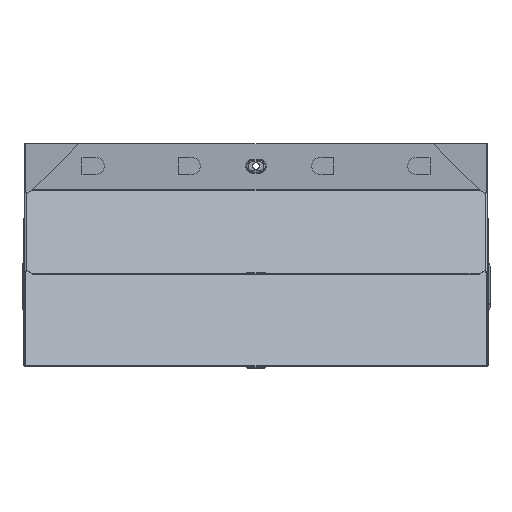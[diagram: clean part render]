
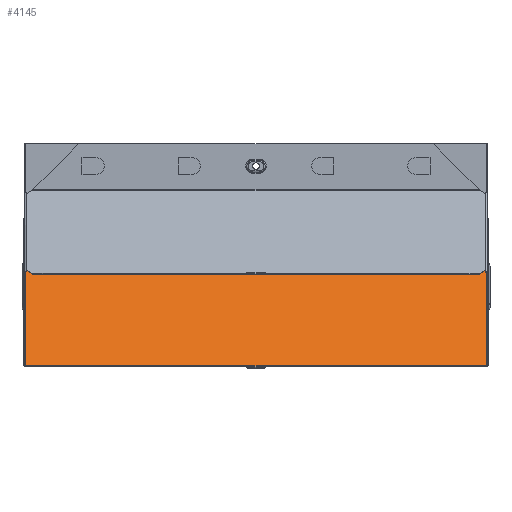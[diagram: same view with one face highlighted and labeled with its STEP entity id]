
A CAD part, front view. The second image highlights one B-rep face of the part: STEP entity #4145.
In plain terms, the highlighted planar face has unit normal (0, -0.707, 0.707).
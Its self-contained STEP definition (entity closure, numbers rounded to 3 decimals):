
#783 = LINE ( 'NONE', #7931, #8824 ) ;
#1243 = VERTEX_POINT ( 'NONE', #4997 ) ;
#1588 = VERTEX_POINT ( 'NONE', #8762 ) ;
#1891 = EDGE_CURVE ( 'NONE', #1588, #1243, #2640, .T. ) ;
#1949 = DIRECTION ( 'NONE',  ( 0., 0.707, -0.707 ) ) ;
#1982 = PLANE ( 'NONE',  #6473 ) ;
#2110 = VERTEX_POINT ( 'NONE', #8311 ) ;
#2503 = DIRECTION ( 'NONE',  ( 0., -0.707, -0.707 ) ) ;
#2640 = LINE ( 'NONE', #5029, #8855 ) ;
#3003 = CARTESIAN_POINT ( 'NONE',  ( -249., 169.707, -21.73 ) ) ;
#3233 = EDGE_CURVE ( 'NONE', #1243, #2110, #783, .T. ) ;
#3461 = VECTOR ( 'NONE', #9242, 1000. ) ;
#3464 = ORIENTED_EDGE ( 'NONE', *, *, #7483, .T. ) ;
#4145 = ADVANCED_FACE ( 'NONE', ( #5306 ), #1982, .F. ) ;
#4348 = DIRECTION ( 'NONE',  ( -1., 0., 0. ) ) ;
#4997 = CARTESIAN_POINT ( 'NONE',  ( 249., 21.73, -169.707 ) ) ;
#5029 = CARTESIAN_POINT ( 'NONE',  ( 249., 95.718, -95.718 ) ) ;
#5210 = DIRECTION ( 'NONE',  ( 0., -0.707, -0.707 ) ) ;
#5306 = FACE_OUTER_BOUND ( 'NONE', #8371, .T. ) ;
#5370 = LINE ( 'NONE', #8361, #3461 ) ;
#5535 = ORIENTED_EDGE ( 'NONE', *, *, #3233, .F. ) ;
#5815 = EDGE_CURVE ( 'NONE', #7350, #2110, #7525, .T. ) ;
#6425 = ORIENTED_EDGE ( 'NONE', *, *, #5815, .T. ) ;
#6473 = AXIS2_PLACEMENT_3D ( 'NONE', #8401, #1949, #6953 ) ;
#6643 = ORIENTED_EDGE ( 'NONE', *, *, #1891, .F. ) ;
#6953 = DIRECTION ( 'NONE',  ( 0., 0.707, 0.707 ) ) ;
#7350 = VERTEX_POINT ( 'NONE', #3003 ) ;
#7483 = EDGE_CURVE ( 'NONE', #1588, #7350, #5370, .T. ) ;
#7525 = LINE ( 'NONE', #7656, #9126 ) ;
#7656 = CARTESIAN_POINT ( 'NONE',  ( -249., 95.718, -95.718 ) ) ;
#7931 = CARTESIAN_POINT ( 'NONE',  ( 249., 21.73, -169.707 ) ) ;
#8311 = CARTESIAN_POINT ( 'NONE',  ( -249., 21.73, -169.707 ) ) ;
#8361 = CARTESIAN_POINT ( 'NONE',  ( 249., 169.707, -21.73 ) ) ;
#8371 = EDGE_LOOP ( 'NONE', ( #6425, #5535, #6643, #3464 ) ) ;
#8401 = CARTESIAN_POINT ( 'NONE',  ( 249., 95.718, -95.718 ) ) ;
#8762 = CARTESIAN_POINT ( 'NONE',  ( 249., 169.707, -21.73 ) ) ;
#8824 = VECTOR ( 'NONE', #4348, 1000. ) ;
#8855 = VECTOR ( 'NONE', #5210, 1000. ) ;
#9126 = VECTOR ( 'NONE', #2503, 1000. ) ;
#9242 = DIRECTION ( 'NONE',  ( -1., 0., 0. ) ) ;
